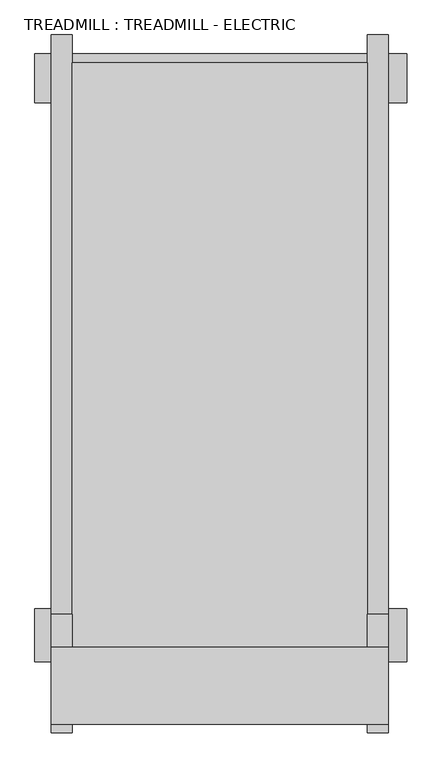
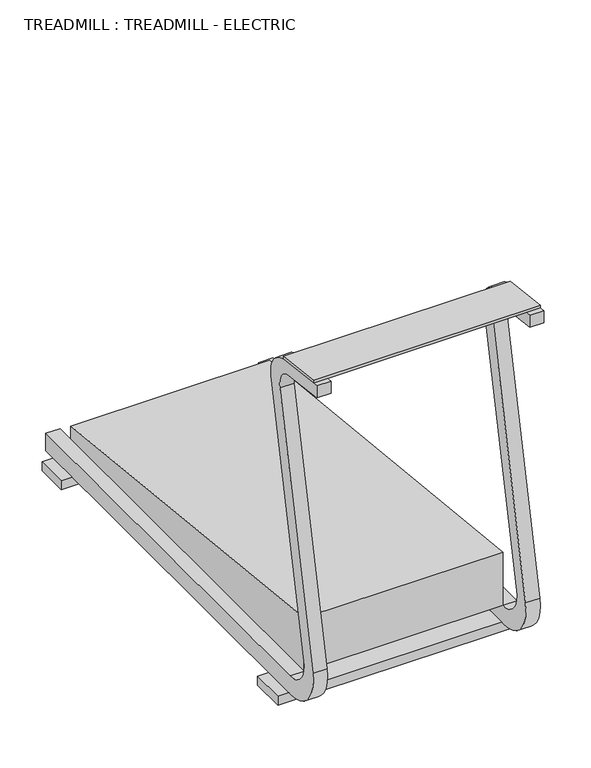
"""IFC4 building model written with IfcOpenShell, lengths in millimetres: proxy geometry, TREADMILL : TREADMILL - ELECTRIC."""

from ifc_helpers import new_model, si_unit, point, frame, frame_2d, origin, origin_with_axes, place, context, project, spatial, polyline, circle_curve, trimmed, segment, composite_curve, outline, extrude, source, transform, mapped, element, save


def treadmill_treadmill_electric_2e12c68f(model_context):
    return source(origin(), model_context, "Body", "SweptSolid", [
        extrude(outline(composite_curve([segment(trimmed(circle_curve(frame_2d((-325.1938626, 1057.9357191)), 80.0), [point((-315.4443151, 1137.3394113))], [point((-246.9577982, 1041.2288874))], False, "CARTESIAN"), True, "CONTINUOUS"), segment(polyline([(-246.9577982, 1041.2288874), (-429.2964969, 187.3588997)]), True, "CONTINUOUS"), segment(trimmed(circle_curve(frame_2d((-351.0604325, 170.652068)), 80.0), [point((-429.2964969, 187.3588997))], [point((-351.0604325, 90.652068))], True, "CARTESIAN"), True, "CONTINUOUS"), segment(polyline([(-351.0604325, 90.652068), (1000.0, 90.652068), (1000.0, 30.652068), (-360.2072142, 30.652068)]), True, "CONTINUOUS"), segment(trimmed(circle_curve(frame_2d((-360.2072142, 150.652068)), 120.0), [point((-360.2072142, 30.652068))], [point((-477.5613108, 175.7123156))], False, "CARTESIAN"), True, "CONTINUOUS"), segment(polyline([(-477.5613108, 175.7123156), (-295.3270477, 1029.0932437)]), True, "CONTINUOUS"), segment(trimmed(circle_curve(frame_2d((-354.004096, 1041.6233675)), 60.0), [point((-295.3270477, 1029.0932437))], [point((-346.6919354, 1101.1761366))], True, "CARTESIAN"), True, "CONTINUOUS"), segment(polyline([(-346.6919354, 1101.1761366), (-500.0, 1120.0), (-500.0, 1160.0), (-315.4443151, 1137.3394113)]), True, "CONTINUOUS")], self_intersect=False)), frame((-364.7799147, 0.0, 0.0), z_axis=(1.0, 0.0, 0.0), x_axis=(0.0, 1.0, 0.0)), (0.0, 0.0, 1.0), 45.2541217),
        extrude(outline(polyline([(-315.4443151, 1137.3394113), (-481.2503717, 1157.6978351), (-481.2503717, 1167.6978351), (-315.4443151, 1147.3394113), (-315.4443151, 1137.3394113)])), frame((-364.7799147, 0.0, 0.0), z_axis=(1.0, 0.0, 0.0), x_axis=(0.0, 1.0, 0.0)), (0.0, 0.0, 1.0), 725.2541217),
        extrude(outline(polyline([(-351.0604325, 90.652068), (-351.0604325, 270.652068), (940.0, 134.9561486), (940.0, 90.652068), (-351.0604325, 90.652068)])), frame((-319.525793, 0.0, 0.0), z_axis=(1.0, 0.0, 0.0), x_axis=(0.0, 1.0, 0.0)), (0.0, 0.0, 1.0), 634.7458783),
        extrude(outline(polyline([(400.0, 959.6885922), (400.0, 854.6885922), (-400.0, 854.6885922), (-400.0, 959.6885922), (400.0, 959.6885922)])), origin_with_axes(), (0.0, 0.0, 1.0), 30.652068),
        extrude(outline(polyline([(400.0, -233.0496673), (400.0, -346.3490863), (-400.0, -346.3490863), (-400.0, -233.0496673), (400.0, -233.0496673)])), origin_with_axes(), (0.0, 0.0, 1.0), 30.652068),
        extrude(outline(composite_curve([segment(trimmed(circle_curve(frame_2d((-325.1938626, 1057.9357191)), 80.0), [point((-315.4443151, 1137.3394113))], [point((-246.9577982, 1041.2288874))], False, "CARTESIAN"), True, "CONTINUOUS"), segment(polyline([(-246.9577982, 1041.2288874), (-429.2964969, 187.3588997)]), True, "CONTINUOUS"), segment(trimmed(circle_curve(frame_2d((-351.0604325, 170.652068)), 80.0), [point((-429.2964969, 187.3588997))], [point((-351.0604325, 90.652068))], True, "CARTESIAN"), True, "CONTINUOUS"), segment(polyline([(-351.0604325, 90.652068), (1000.0, 90.652068), (1000.0, 30.652068), (-360.2072142, 30.652068)]), True, "CONTINUOUS"), segment(trimmed(circle_curve(frame_2d((-360.2072142, 150.652068)), 120.0), [point((-360.2072142, 30.652068))], [point((-477.5613108, 175.7123156))], False, "CARTESIAN"), True, "CONTINUOUS"), segment(polyline([(-477.5613108, 175.7123156), (-295.3270477, 1029.0932437)]), True, "CONTINUOUS"), segment(trimmed(circle_curve(frame_2d((-354.004096, 1041.6233675)), 60.0), [point((-295.3270477, 1029.0932437))], [point((-346.6919354, 1101.1761366))], True, "CARTESIAN"), True, "CONTINUOUS"), segment(polyline([(-346.6919354, 1101.1761366), (-500.0, 1120.0), (-500.0, 1160.0), (-315.4443151, 1137.3394113)]), True, "CONTINUOUS")], self_intersect=False)), frame((315.2200853, 0.0, 0.0), z_axis=(1.0, 0.0, 0.0), x_axis=(0.0, 1.0, 0.0)), (0.0, 0.0, 1.0), 45.2541217),
    ])


if __name__ == "__main__":
    model = new_model("IFC4")
    model_context = context("Model", 3, world=origin())
    ifc_project = project(units=[si_unit("LENGTHUNIT", "METRE", prefix="MILLI")], contexts=[model_context])
    site = spatial("IfcSite", under=ifc_project)
    building = spatial("IfcBuilding", under=site)
    placement = place(None, origin())
    treadmill_treadmill_electric_shape = treadmill_treadmill_electric_2e12c68f(model_context)
    element("IfcBuildingElementProxy", 1, Name="TREADMILL : TREADMILL - ELECTRIC", ObjectType="TREADMILL : TREADMILL - ELECTRIC", at=placement, inside=building, context=model_context, shape_type="MappedRepresentation", body=[
        mapped(treadmill_treadmill_electric_shape, transform((0.0, 0.0, 0.0), x_axis=(1.0, 0.0, 0.0), y_axis=(0.0, 1.0, 0.0), z_axis=(0.0, 0.0, 1.0))),
    ])
    save(model, "model.ifc")
